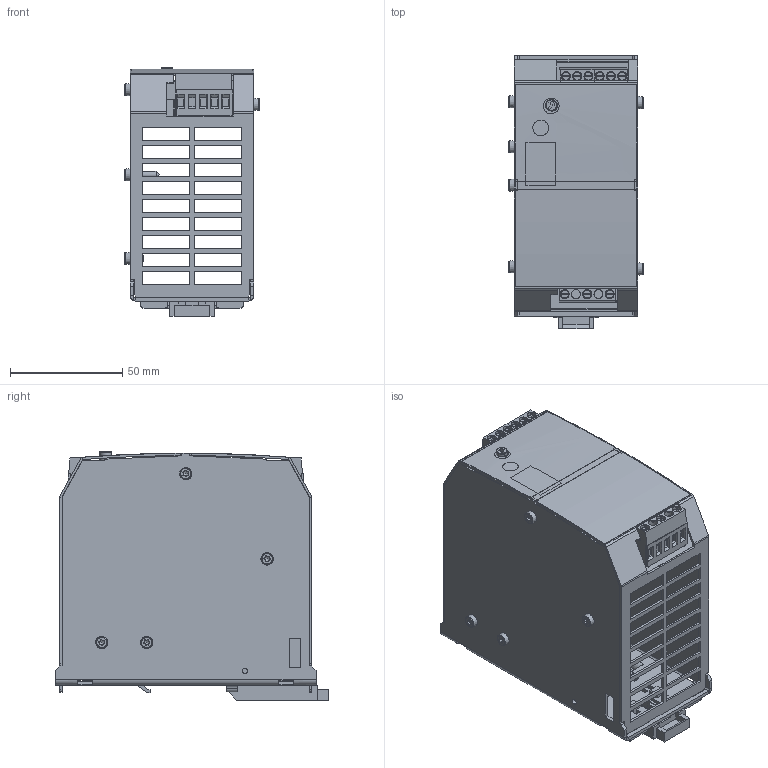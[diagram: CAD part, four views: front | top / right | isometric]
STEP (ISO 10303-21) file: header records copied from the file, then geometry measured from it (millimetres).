
FILE_DESCRIPTION((''),'2;1');
FILE_NAME('M:\Disegni\Progetti\1_1 Alimentatori rete\FLEX\FLEX170\Immagini e Rendering\150423 FLEX90-170W Complete Drawings 2D-3D\FLEX17024A_Assembly.stp','2015-04-23T17:06:44',('Tecnico2'),(''),'Autodesk Inventor 2012','Autodesk Inventor 2012','');
FILE_SCHEMA(('AUTOMOTIVE_DESIGN { 1 0 10303 214 1 1 1 1 }'));
Length unit declared in the file: millimetre
Products named in the file (22): FLEX17024A_Assembly; M3M_00F_033A8_Bottom BOX; M3M_00C_033A8_Top BOX; FLEX17024A Etichetta; A24_323_201A3_R2_Master_Assemblato; A24_323_202A4_Input_Assemblato; A24_323_202A4_Input; C_Poliest_07_26H16_P22.5; MQF.002.100A5_Morsetto di terra; C_D9S6P10; Fusibile 4A; SAURO 3P p.10 msq03002; MOV D10 10N431; A24_323_211A3_R1_Output_Assemblato; A24_323_211A3_R1_Output; SAURO 3P p.5 msq03001; Rele_VEGhA; C_El_D10H17.5P05; Perno Trimmer Piccolo; MGP.451.90MA5_Gancio Din; Screw GB_T 2171.1 M3 x 13 Autofilettante; Screw GB_T 2171.1 M3 x 6
Assembly tree (28 placements, depth 4):
  FLEX17024A_Assembly
    M3M_00F_033A8_Bottom BOX
    M3M_00C_033A8_Top BOX
    FLEX17024A Etichetta
    A24_323_201A3_R2_Master_Assemblato
      A24_323_202A4_Input_Assemblato
        A24_323_202A4_Input
        C_Poliest_07_26H16_P22.5
        MQF.002.100A5_Morsetto di terra
        C_D9S6P10  x2
        Fusibile 4A
        SAURO 3P p.10 msq03002
        MOV D10 10N431
      A24_323_211A3_R1_Output_Assemblato
        A24_323_211A3_R1_Output
        SAURO 3P p.5 msq03001  x2
        Rele_VEGhA
        MQF.002.100A5_Morsetto di terra
        C_El_D10H17.5P05
      Perno Trimmer Piccolo
    MGP.451.90MA5_Gancio Din
    Screw GB_T 2171.1 M3 x 13 Autofilettante
    Screw GB_T 2171.1 M3 x 6  x5
Bounding box: 59.8 x 121.61 x 110.55 mm (x, y, z)
Volume: 77022.9 mm3; surface area: 113702.1 mm2
Topology: 44 solids, 45 shells, 2029 faces, 5188 edges, 3366 vertices
Faces by surface type: plane 1459, cylinder 389, bspline 76, torus 57, sphere 24, cone 24
Full cylindrical faces by diameter (mm): 0.3 x6, 0.8 x10, 1 x45, 1.4 x9, 1.52 x3, 2 x3, 2.5 x2, 2.675 x6, 2.7 x2, 2.8 x1, 3 x7, 3.1 x2, 3.3 x3, 3.85 x9, 4 x11, 4.7 x2, 5 x3, 7 x4, 9 x1, 10.5 x2
Entity records: 53598 total; most frequent: CARTESIAN_POINT 12650, ORIENTED_EDGE 8204, DIRECTION 7803, EDGE_CURVE 4110, VECTOR 3167, LINE 3167, VERTEX_POINT 2735, AXIS2_PLACEMENT_3D 2318
